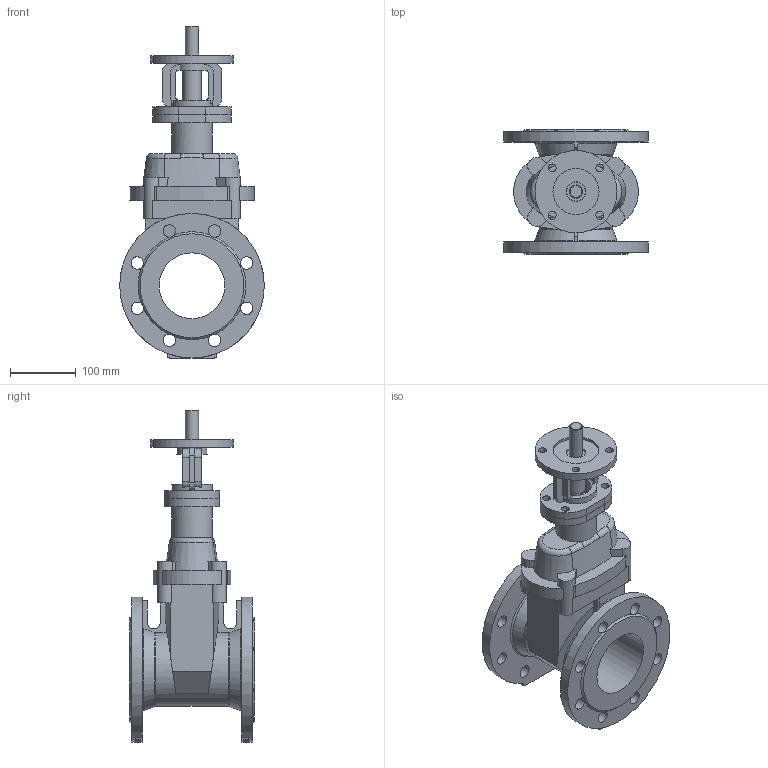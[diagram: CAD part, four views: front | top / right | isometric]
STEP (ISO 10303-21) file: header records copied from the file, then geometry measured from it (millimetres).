
FILE_DESCRIPTION(('STEP AP203'), '1');
FILE_NAME('Çàäâèæêà 47GV.M DN100 ñ ïåðåõîäîì ïîä ISO ôëàíåö', '', ('UNSPECIFIED'), ('UNSPECIFIED'), 'ASCON STEP Converter 1.6', 'ASCON Math Kernel', '');
FILE_SCHEMA(('CONFIG_CONTROL_DESIGN'));
Length unit declared in the file: millimetre
Bounding box: 220 x 190 x 505 mm (x, y, z)
Volume: 3934677.3 mm3; surface area: 446440.9 mm2
Topology: 1 solids, 1 shells, 234 faces, 685 edges, 451 vertices
Faces by surface type: plane 113, cylinder 100, torus 10, cone 9, bspline 2
Full cylindrical faces by diameter (mm): 12 x8, 19 x16, 20 x2, 29 x1, 30 x1, 46 x1, 62 x1, 70 x2, 100 x1, 125 x1, 220 x2
Entity records: 12440 total; most frequent: CARTESIAN_POINT 4212, DIRECTION 1356, ORIENTED_EDGE 1292, EDGE_CURVE 646, AXIS2_PLACEMENT_3D 540, VERTEX_POINT 451, EDGE_LOOP 325, CIRCLE 307
